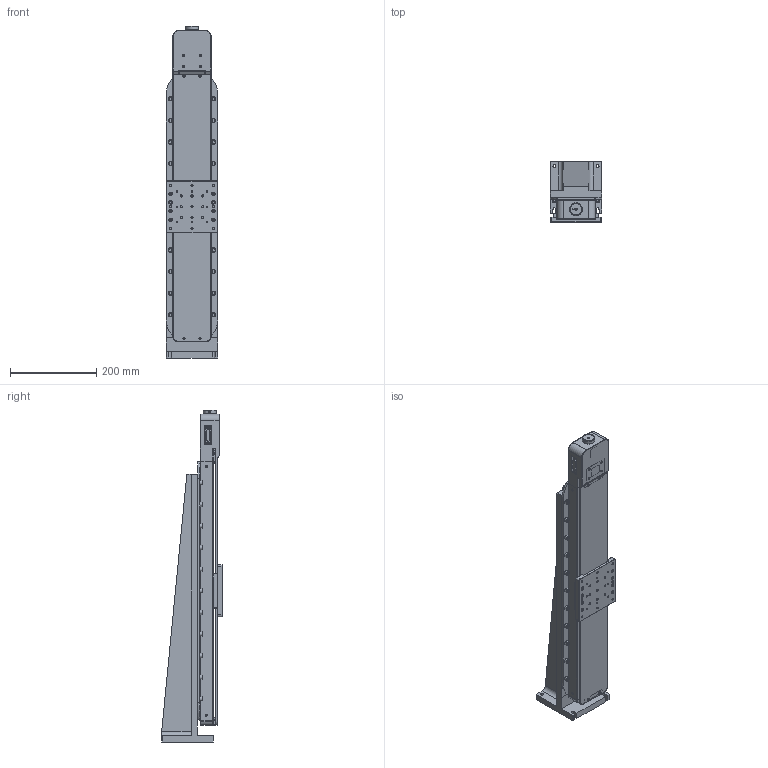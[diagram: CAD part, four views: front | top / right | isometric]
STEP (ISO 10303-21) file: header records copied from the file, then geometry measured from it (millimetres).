
FILE_DESCRIPTION((''),'2;1');
FILE_NAME('Z:\1規格品図面ﾃﾞｰﾀ\世界カタログ\OSMS\Z\HP_ﾀﾞｳﾝﾛｰﾄﾞ用\3D\OSMS33-500(Z)(M6)\OSMS33-500(Z)-M6_STP.stp','2014-03-25T10:17:41',('kawashima'),(''),'Autodesk Inventor 2008','Autodesk Inventor 2008','');
FILE_SCHEMA(('AUTOMOTIVE_DESIGN { 1 0 10303 214 1 1 1 1 }'));
Length unit declared in the file: millimetre
Products named in the file (4): OS3350ZM-M02-13001-TS01; OSZ-33; OS3350ZM-M02-13001-S08; OS3350ZM-M02-13001-S03
Assembly tree (3 placements, depth 2):
  OS3350ZM-M02-13001-TS01
    OSZ-33
    OS3350ZM-M02-13001-S08
    OS3350ZM-M02-13001-S03
Bounding box: 120 x 140.5 x 768.5 mm (x, y, z)
Volume: 4241201.7 mm3; surface area: 972894.6 mm2
Topology: 3 solids, 106 shells, 2893 faces, 7031 edges, 4563 vertices
Faces by surface type: plane 1784, cylinder 424, bspline 397, cone 267, torus 18, sphere 3
Full cylindrical faces by diameter (mm): 1.567 x6, 2 x6, 2.113 x4, 2.5 x2, 2.6 x4, 3 x20, 3.5 x2, 3.8 x2, 4 x26, 4.5 x3, 5 x20, 5.3 x4, 5.5 x14, 6 x30, 6.5 x2, 7 x12, 8.5 x16, 10 x24, 13.6 x1, 16 x1, 22 x1, 26 x1, 30 x2
Entity records: 83692 total; most frequent: CARTESIAN_POINT 20820, DIRECTION 12480, ORIENTED_EDGE 11992, EDGE_CURVE 5996, AXIS2_PLACEMENT_3D 4259, VERTEX_POINT 4230, EDGE_LOOP 4114, VECTOR 3962
